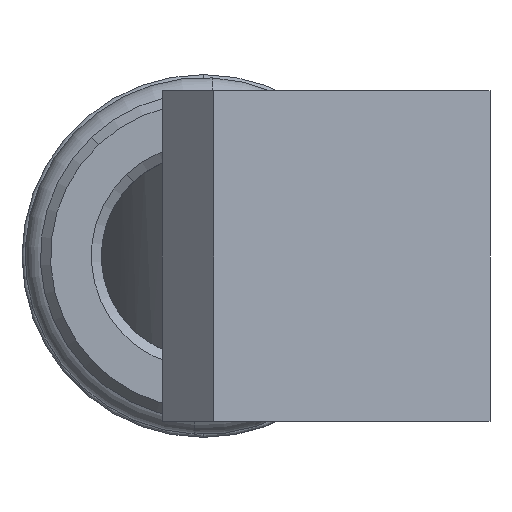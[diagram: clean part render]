
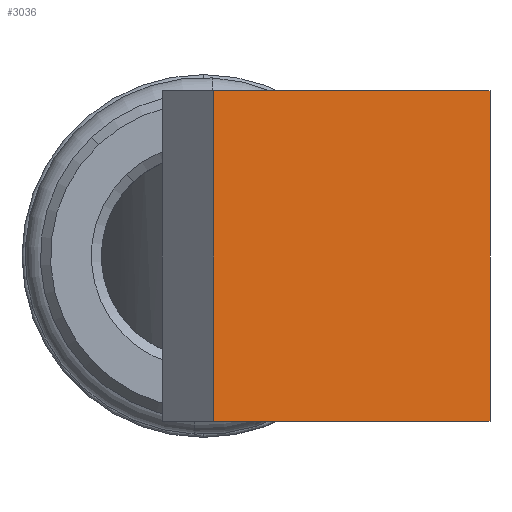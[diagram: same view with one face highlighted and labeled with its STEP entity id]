
A CAD part, left-side view. The second image highlights one B-rep face of the part: STEP entity #3036.
In plain terms, the highlighted planar face has unit normal (-0.997, -0.084, 0).
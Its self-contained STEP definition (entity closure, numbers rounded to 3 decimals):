
#109 = CARTESIAN_POINT ( 'NONE',  ( -174.496, -0.496, -15. ) ) ;
#307 = FACE_OUTER_BOUND ( 'NONE', #996, .T. ) ;
#408 = DIRECTION ( 'NONE',  ( -0.084, 0.996, 0. ) ) ;
#420 = EDGE_CURVE ( 'NONE', #2668, #2219, #938, .T. ) ;
#565 = EDGE_CURVE ( 'NONE', #628, #1220, #1478, .T. ) ;
#628 = VERTEX_POINT ( 'NONE', #3618 ) ;
#667 = CARTESIAN_POINT ( 'NONE',  ( -173.357, -14.062, 8.1 ) ) ;
#694 = DIRECTION ( 'NONE',  ( 0., 0., 1. ) ) ;
#791 = EDGE_CURVE ( 'NONE', #2219, #1220, #3068, .T. ) ;
#938 = LINE ( 'NONE', #2313, #3157 ) ;
#996 = EDGE_LOOP ( 'NONE', ( #1627, #3692, #1499, #1261 ) ) ;
#1090 = AXIS2_PLACEMENT_3D ( 'NONE', #2238, #3718, #2540 ) ;
#1220 = VERTEX_POINT ( 'NONE', #2539 ) ;
#1261 = ORIENTED_EDGE ( 'NONE', *, *, #565, .F. ) ;
#1310 = VECTOR ( 'NONE', #408, 1000. ) ;
#1328 = DIRECTION ( 'NONE',  ( -0.084, 0.996, 0. ) ) ;
#1478 = LINE ( 'NONE', #109, #3011 ) ;
#1499 = ORIENTED_EDGE ( 'NONE', *, *, #791, .T. ) ;
#1627 = ORIENTED_EDGE ( 'NONE', *, *, #2261, .F. ) ;
#1650 = CARTESIAN_POINT ( 'NONE',  ( -158.251, -193.973, 8.1 ) ) ;
#2219 = VERTEX_POINT ( 'NONE', #667 ) ;
#2238 = CARTESIAN_POINT ( 'NONE',  ( -158.251, -193.973, -15. ) ) ;
#2261 = EDGE_CURVE ( 'NONE', #2668, #628, #2856, .T. ) ;
#2313 = CARTESIAN_POINT ( 'NONE',  ( -173.357, -14.062, -15. ) ) ;
#2328 = VECTOR ( 'NONE', #1328, 1000. ) ;
#2539 = CARTESIAN_POINT ( 'NONE',  ( -174.496, -0.496, 8.1 ) ) ;
#2540 = DIRECTION ( 'NONE',  ( 0.084, -0.996, 0. ) ) ;
#2668 = VERTEX_POINT ( 'NONE', #3458 ) ;
#2856 = LINE ( 'NONE', #2976, #1310 ) ;
#2976 = CARTESIAN_POINT ( 'NONE',  ( -158.251, -193.973, -8.1 ) ) ;
#3011 = VECTOR ( 'NONE', #694, 1000. ) ;
#3036 = ADVANCED_FACE ( 'NONE', ( #307 ), #3137, .T. ) ;
#3068 = LINE ( 'NONE', #1650, #2328 ) ;
#3137 = PLANE ( 'NONE',  #1090 ) ;
#3157 = VECTOR ( 'NONE', #3202, 1000. ) ;
#3202 = DIRECTION ( 'NONE',  ( 0., 0., 1. ) ) ;
#3458 = CARTESIAN_POINT ( 'NONE',  ( -173.357, -14.062, -8.1 ) ) ;
#3618 = CARTESIAN_POINT ( 'NONE',  ( -174.496, -0.496, -8.1 ) ) ;
#3692 = ORIENTED_EDGE ( 'NONE', *, *, #420, .T. ) ;
#3718 = DIRECTION ( 'NONE',  ( -0.996, -0.084, 0. ) ) ;
